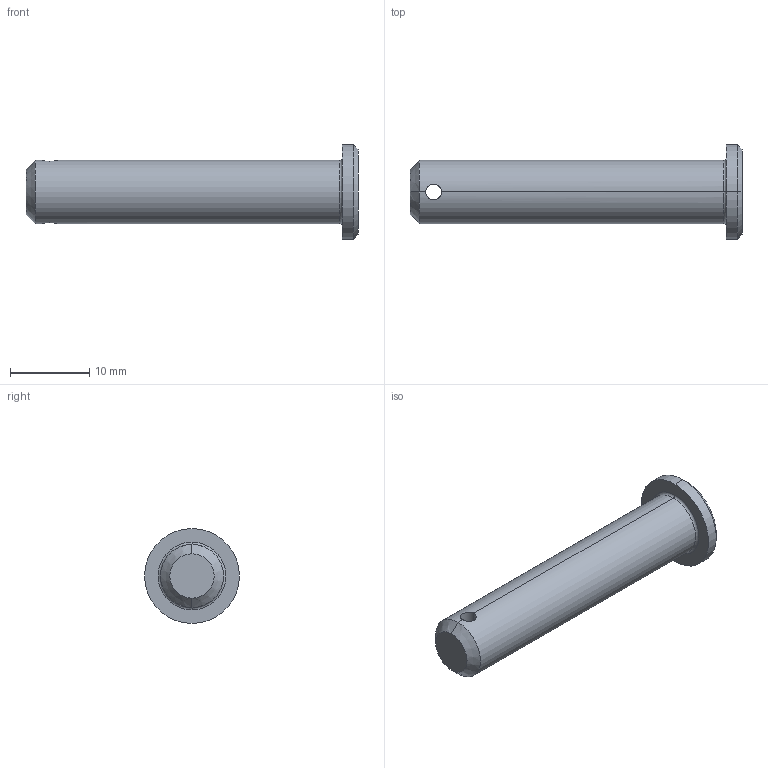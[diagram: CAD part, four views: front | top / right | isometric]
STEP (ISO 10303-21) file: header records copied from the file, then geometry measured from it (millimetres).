
FILE_DESCRIPTION (( 'STEP AP203' ), '1' );
FILE_NAME ('Wiberger-sms2360_8x40.step', '2012-10-09T08:59:05', ( 'Magnus' ), ( 'Wiberger' ), 'SwSTEP 2.0', 'SolidWorks 2011', '' );
FILE_SCHEMA (( 'CONFIG_CONTROL_DESIGN' ));
Length unit declared in the file: millimetre
Products named in the file (1): Wiberger-sms2360_8x40
Bounding box: 42 x 12 x 12 mm (x, y, z)
Volume: 2189.5 mm3; surface area: 1313.6 mm2
Topology: 1 solids, 1 shells, 15 faces, 32 edges, 18 vertices
Faces by surface type: cylinder 6, cone 4, plane 3, torus 2
Entity records: 543 total; most frequent: CARTESIAN_POINT 134, DIRECTION 76, ORIENTED_EDGE 64, EDGE_CURVE 32, AXIS2_PLACEMENT_3D 32, VERTEX_POINT 18, EDGE_LOOP 16, CIRCLE 16
